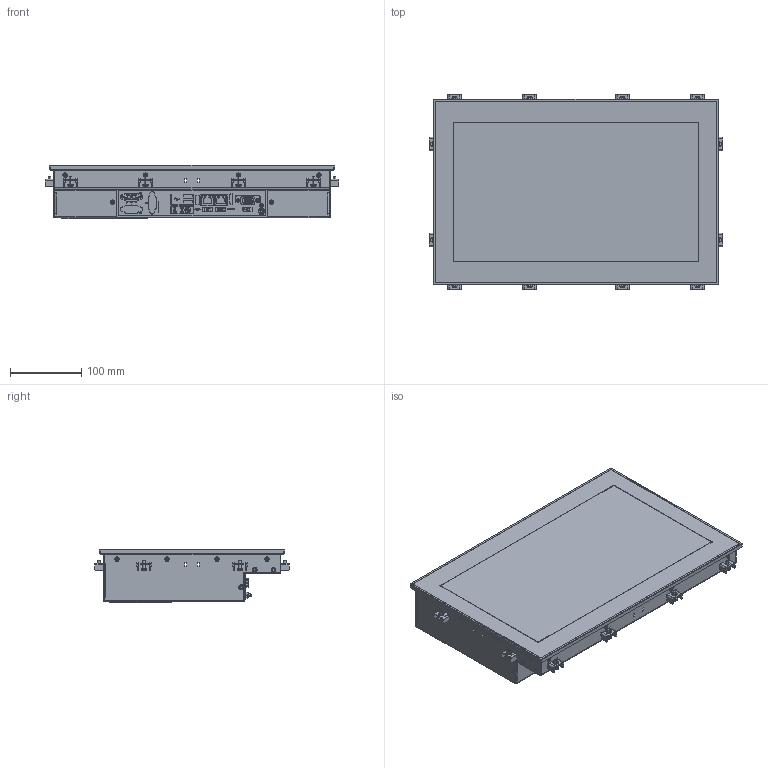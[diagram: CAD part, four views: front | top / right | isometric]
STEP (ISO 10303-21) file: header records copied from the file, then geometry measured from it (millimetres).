
FILE_DESCRIPTION((''),'2;1');
FILE_NAME('2030013','2020-10-30T09:43:02',('j.rink'),(''),'CREO PARAMETRIC BY PTC INC, 2019292','CREO PARAMETRIC BY PTC INC, 2019292','');
FILE_SCHEMA(('AUTOMOTIVE_DESIGN { 1 0 10303 214 1 1 1 1 }'));
Products named in the file (1): 2030013
Bounding box: 411 x 272 x 75.1 mm (x, y, z)
Volume: 6690.8 mm3; surface area: 469269.5 mm2
Topology: 1 solids, 205 shells, 861 faces, 6388 edges, 5698 vertices
Faces by surface type: plane 513, cylinder 139, cone 130, torus 54, sphere 21, bspline 4
Entity records: 92950 total; most frequent: CARTESIAN_POINT 16142, DIRECTION 9565, ORIENTED_EDGE 7749, PRESENTATION_STYLE_ASSIGNMENT 7306, STYLED_ITEM 6451, CURVE_STYLE 6359, EDGE_CURVE 6356, VERTEX_POINT 5694
